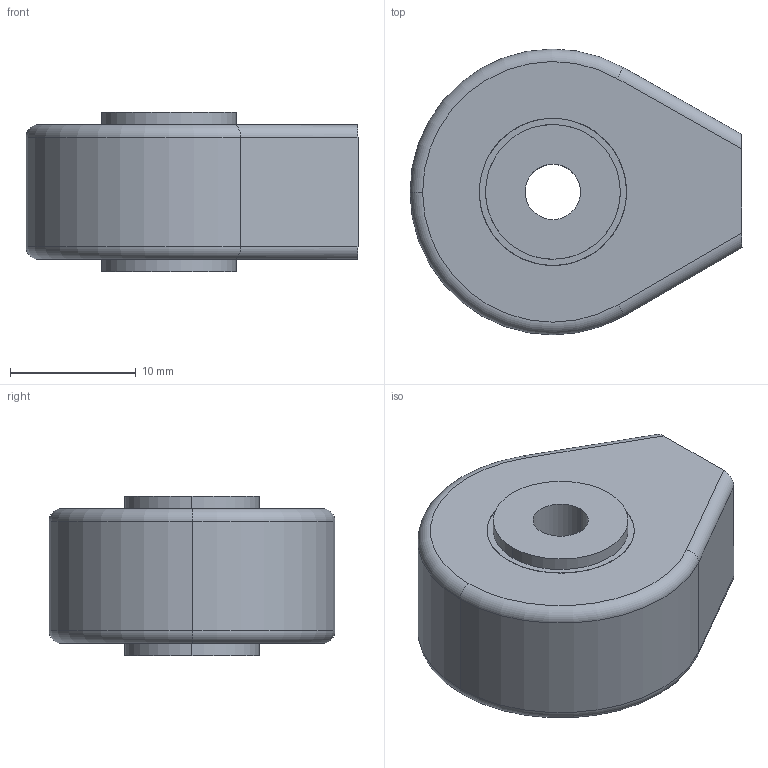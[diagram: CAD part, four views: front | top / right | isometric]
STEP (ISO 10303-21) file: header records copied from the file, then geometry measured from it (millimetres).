
FILE_DESCRIPTION (( 'STEP AP214' ), '1' );
FILE_NAME ('DW-TRHT04-XXXX Triggy HT04.STEP', '2022-02-25T15:29:42', ( '' ), ( '' ), 'SwSTEP 2.0', 'SolidWorks 2021', '' );
FILE_SCHEMA (( 'AUTOMOTIVE_DESIGN' ));
Length unit declared in the file: millimetre
Products named in the file (4): DW-TRENXX-0000-Enrobage simplifie TRIGGYS_HT04; DW-TRENXX-XXXX- ENTRETOISE SIMPLIFIEE_HT04; DW-TRBAXX-XXXX- BAGUE SIMPLIFIEE_HT04; DW-TRHT04-XXXX Triggy HT04
Assembly tree (3 placements, depth 2):
  DW-TRHT04-XXXX Triggy HT04
    DW-TRENXX-XXXX- ENTRETOISE SIMPLIFIEE_HT04
    DW-TRBAXX-XXXX- BAGUE SIMPLIFIEE_HT04
    DW-TRENXX-0000-Enrobage simplifie TRIGGYS_HT04
Bounding box: 26.37 x 22.7 x 12.7 mm (x, y, z)
Volume: 4872.5 mm3; surface area: 3410.2 mm2
Topology: 3 solids, 3 shells, 205 faces, 546 edges, 362 vertices
Faces by surface type: bspline 97, plane 88, cylinder 16, torus 4
Entity records: 9142 total; most frequent: CARTESIAN_POINT 2609, ORIENTED_EDGE 1092, DIRECTION 603, EDGE_CURVE 546, VERTEX_POINT 362, VECTOR 307, LINE 307, EDGE_LOOP 226
